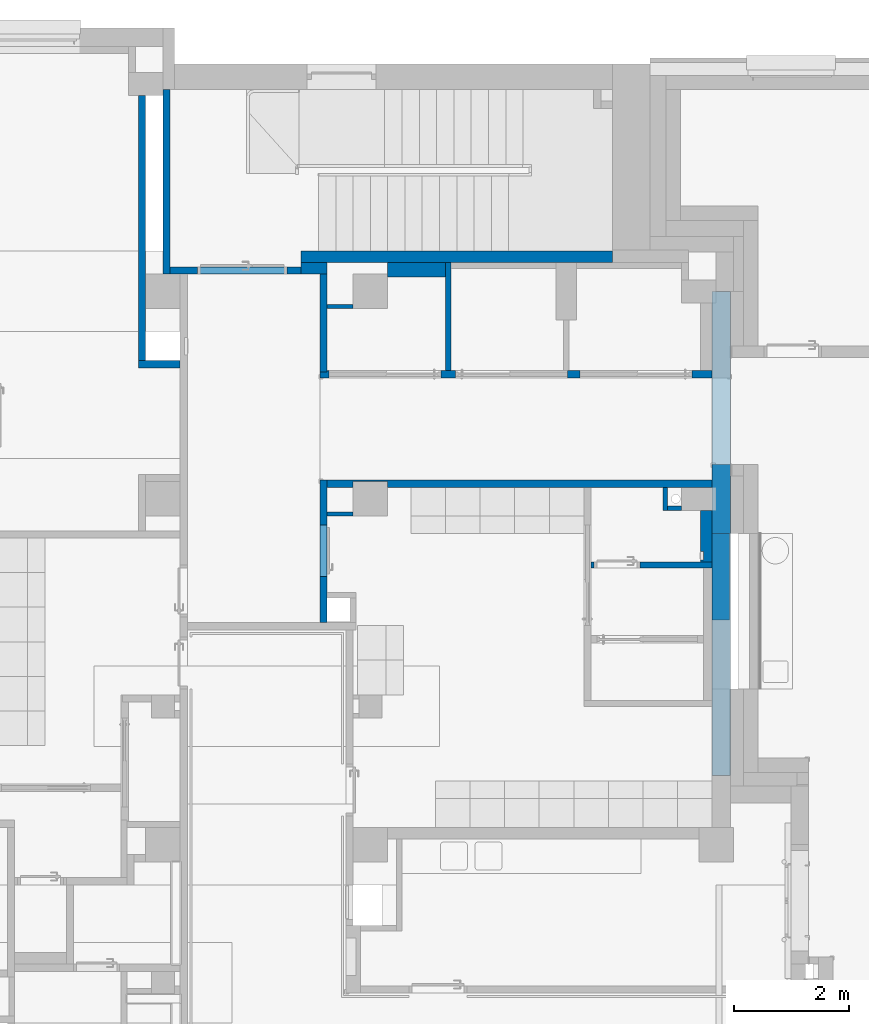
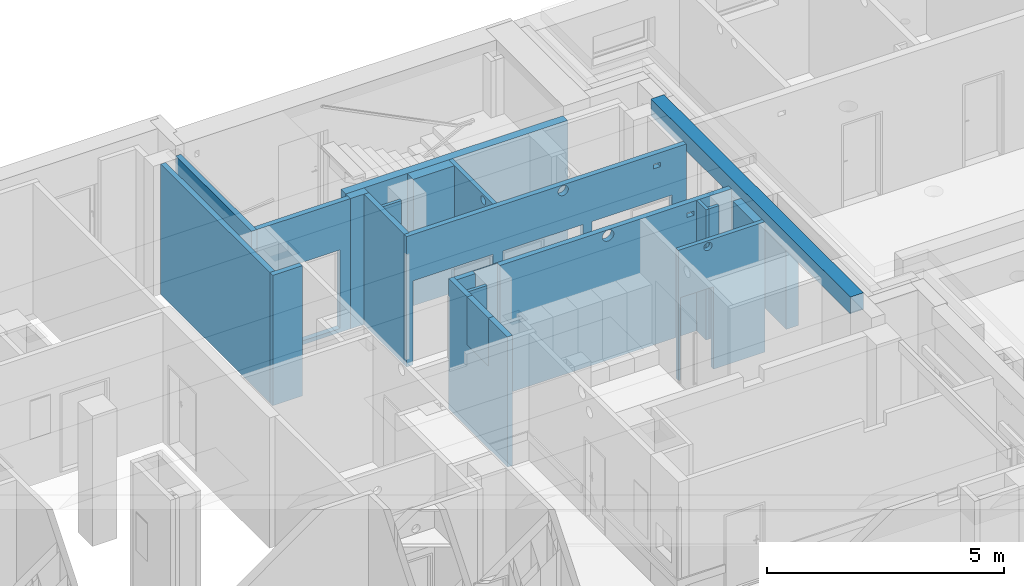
# One storey, part 53 of 140: 22 walls, 16 openings.
"""IFC4 building model written with IfcOpenShell, lengths in metres."""

from ifc_helpers import new_model, entity, si_unit, converted_unit, derived_unit, frame, frame_2d, origin, origin_with_axes, place, context, subcontext, project, spatial, polyline, rectangle, outline, extrude, material, layer, layer_set, layer_usage, element, save


model = new_model("IFC4")

# Units and contexts
model_context = context("Model", 3, precision=1e-05, world=origin())
body_context = subcontext(model_context, "Body", "Model", "MODEL_VIEW")
ifc_project = project(units=[si_unit("LENGTHUNIT", "METRE"), si_unit("AREAUNIT", "SQUARE_METRE"), si_unit("VOLUMEUNIT", "CUBIC_METRE"), si_unit("MASSUNIT", "GRAM", prefix="KILO"), converted_unit("PLANEANGLEUNIT", "DEGREE", entity("IfcPlaneAngleMeasure", 0.0174532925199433), si_unit("PLANEANGLEUNIT", "RADIAN"), dimensions=[0, 0, 0, 0, 0, 0, 0]), derived_unit("THERMALTRANSMITTANCEUNIT", [(si_unit("POWERUNIT", "WATT"), 1), (si_unit("THERMODYNAMICTEMPERATUREUNIT", "KELVIN"), -1), (si_unit("LENGTHUNIT", "METRE"), -2)]), derived_unit("VOLUMETRICFLOWRATEUNIT", [(si_unit("LENGTHUNIT", "METRE"), 3), (converted_unit("TIMEUNIT", "hour", entity("IfcTimeMeasure", 3600.0), si_unit("TIMEUNIT", "SECOND"), dimensions=[0, 0, 1, 0, 0, 0, 0]), -1), (si_unit("LENGTHUNIT", "METRE"), -1)])], contexts=[model_context])

# Site, building, storey
site_placement = place(None, origin())
site = spatial("IfcSite", under=ifc_project, at=site_placement, Name="3. ASŘ", CompositionType="ELEMENT")
building_placement = place(site_placement, origin())
building = spatial("IfcBuilding", under=site, at=building_placement, Name="Pavilon C", CompositionType="ELEMENT")
storey_placement = place(building_placement, origin())
storey = spatial("IfcBuildingStorey", under=building, at=storey_placement, Name="Půdorys 1.NP", CompositionType="ELEMENT", Elevation=0.0)

# Walls
ifc_material_1 = material(Name="ZELEZOBETONOVÁ KCE")
ifc_layer_1 = layer(ifc_material_1, 0.2)
ifc_layer_set_1 = layer_set([ifc_layer_1])
ifc_layer_usage_1 = layer_usage(ifc_layer_set_1, "AXIS2", "POSITIVE", 0.0)
wall_1_placement = place(storey_placement, frame((48.15, 29.5, -0.1), z_axis=(0.0, 0.0, 1.0), x_axis=(-1.0, 0.0, 0.0)))
element("IfcWall", 1, at=wall_1_placement, inside=storey, material=ifc_layer_usage_1, Name="ZELEZOBETONOVÁ KCE", context=body_context, shape_type="SweptSolid", body=[
    extrude(rectangle(XDim=5.40000000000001, YDim=0.2, at=frame_2d((2.70000000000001, 0.1), x_axis=(1.0, 0.0))), origin_with_axes(), (0.0, 0.0, 1.0), 3.35),
])
ifc_material_2 = material(Name="ZDIVO Z CDm")
ifc_layer_2 = layer(ifc_material_2, 0.125)
ifc_layer_set_2 = layer_set([ifc_layer_2])
ifc_layer_usage_2 = layer_usage(ifc_layer_set_2, "AXIS2", "POSITIVE", 0.0)
wall_2_placement = place(storey_placement, frame((40.35, 32.3, -0.1), z_axis=(0.0, 0.0, 1.0), x_axis=(0.0, -1.0, 0.0)))
element("IfcWall", 2, at=wall_2_placement, inside=storey, material=ifc_layer_usage_2, Name="ZDIVO Z CDm", context=body_context, shape_type="SweptSolid", body=[
    extrude(rectangle(XDim=3.19999999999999, YDim=0.125, at=frame_2d((1.6, 0.0625), x_axis=(1.0, 0.0))), origin_with_axes(), (0.0, 0.0, 1.0), 3.35),
])
ifc_material_3 = material(Name="ZDIVO Z CDm")
ifc_layer_3 = layer(ifc_material_3, 0.125)
ifc_layer_set_3 = layer_set([ifc_layer_3])
ifc_layer_usage_3 = layer_usage(ifc_layer_set_3, "AXIS2", "POSITIVE", 0.0)
wall_3_placement = place(storey_placement, frame((40.05, 27.6, -0.1), z_axis=(0.0, 0.0, 1.0), x_axis=(0.0, 1.0, 0.0)))
element("IfcWall", 3, at=wall_3_placement, inside=storey, material=ifc_layer_usage_3, Name="ZDIVO Z CDm", context=body_context, shape_type="SweptSolid", body=[
    extrude(rectangle(XDim=4.6, YDim=0.125, at=frame_2d((2.3, 0.0625), x_axis=(1.0, 0.0))), origin_with_axes(), (0.0, 0.0, 1.0), 3.35),
])
ifc_material_4 = material(Name="ZDIVO Z CDm")
ifc_layer_4 = layer(ifc_material_4, 0.125)
ifc_layer_set_4 = layer_set([ifc_layer_4])
ifc_layer_usage_4 = layer_usage(ifc_layer_set_4, "AXIS2", "POSITIVE", 0.0)
wall_4_placement = place(storey_placement, frame((40.65, 27.6, -0.1), z_axis=(0.0, 0.0, 1.0), x_axis=(-1.0, 0.0, 0.0)))
element("IfcWall", 4, at=wall_4_placement, inside=storey, material=ifc_layer_usage_4, Name="ZDIVO Z CDm", context=body_context, shape_type="SweptSolid", body=[
    extrude(rectangle(XDim=0.725, YDim=0.125, at=frame_2d((0.3625, 0.0625), x_axis=(1.0, 0.0))), origin_with_axes(), (0.0, 0.0, 1.0), 3.35),
])

# Wall, opening
ifc_material_5 = material(Name="ZDIVO Z CDm")
ifc_layer_5 = layer(ifc_material_5, 0.125)
ifc_layer_set_5 = layer_set([ifc_layer_5])
ifc_layer_usage_5 = layer_usage(ifc_layer_set_5, "AXIS2", "POSITIVE", 0.0)
wall_5_placement = place(storey_placement, frame((42.75, 29.225, -0.1), z_axis=(0.0, 0.0, 1.0), x_axis=(-1.0, 0.0, 0.0)))
wall_5 = element("IfcWall", 5, at=wall_5_placement, inside=storey, material=ifc_layer_usage_5, Name="ZDIVO Z CDm", context=body_context, shape_type="SweptSolid", body=[
    extrude(rectangle(XDim=2.27499999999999, YDim=0.125, at=frame_2d((1.13749999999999, 0.0625), x_axis=(1.0, 0.0))), origin_with_axes(), (0.0, 0.0, 1.0), 3.35),
])
opening_1_placement = place(wall_5_placement, frame((0.249999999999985, 0.0, 0.1), z_axis=(0.0, 1.0, 0.0), x_axis=(0.0, 0.0, 1.0)))
element("IfcOpeningElement", 6, at=opening_1_placement, cuts=wall_5, Name="Dveřní otvor", ObjectType="Opening", context=body_context, shape_type="SweptSolid", body=[
    extrude(outline(polyline([(0.0, 1.55), (2.02, 1.55), (2.02, 0.0), (0.0, 0.0), (0.0, 1.55)])), origin_with_axes(), (0.0, 0.0, 1.0), 0.125),
])

# Walls
ifc_material_6 = material(Name="ZDIVO Z CDm")
ifc_layer_6 = layer(ifc_material_6, 0.2)
ifc_layer_set_6 = layer_set([ifc_layer_6])
ifc_layer_usage_6 = layer_usage(ifc_layer_set_6, "AXIS2", "POSITIVE", 0.0)
wall_6_placement = place(storey_placement, frame((43.2, 29.3, -0.1), z_axis=(0.0, 0.0, 1.0), x_axis=(-1.0, 0.0, 0.0)))
element("IfcWall", 7, at=wall_6_placement, inside=storey, material=ifc_layer_usage_6, Name="ZDIVO Z CDm", context=body_context, shape_type="SweptSolid", body=[
    extrude(rectangle(XDim=0.450000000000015, YDim=0.2, at=frame_2d((0.225000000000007, 0.1), x_axis=(1.0, 0.0))), origin_with_axes(), (0.0, 0.0, 1.0), 3.35),
])
ifc_material_7 = material(Name="PLYNOSILIKÁT")
ifc_layer_7 = layer(ifc_material_7, 0.32)
ifc_layer_set_7 = layer_set([ifc_layer_7])
ifc_layer_usage_7 = layer_usage(ifc_layer_set_7, "AXIS2", "POSITIVE", 0.0)
wall_7_placement = place(storey_placement, frame((50.2, 24.6, 1.03), z_axis=(0.0, 0.0, 1.0), x_axis=(0.0, 1.0, 0.0)))
element("IfcWall", 8, at=wall_7_placement, inside=storey, material=ifc_layer_usage_7, Name="PLYNOSILIKÁT", context=body_context, shape_type="SweptSolid", body=[
    extrude(rectangle(XDim=1.19999999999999, YDim=0.32, at=frame_2d((0.599999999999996, 0.16), x_axis=(1.0, 0.0))), origin_with_axes(), (0.0, 0.0, 1.0), 2.04),
])
ifc_material_8 = material(Name="ZELEZOBETONOVÁ KCE")
ifc_layer_8 = layer(ifc_material_8, 0.32)
ifc_layer_set_8 = layer_set([ifc_layer_8])
ifc_layer_usage_8 = layer_usage(ifc_layer_set_8, "AXIS2", "POSITIVE", 0.0)
wall_8_placement = place(storey_placement, frame((50.2, 20.4, 3.07), z_axis=(0.0, 0.0, 1.0), x_axis=(0.0, 1.0, 0.0)))
element("IfcWall", 9, at=wall_8_placement, inside=storey, material=ifc_layer_usage_8, Name="ZELEZOBETONOVÁ KCE", context=body_context, shape_type="SweptSolid", body=[
    extrude(rectangle(XDim=8.4, YDim=0.32, at=frame_2d((4.2, 0.16), x_axis=(1.0, 0.0))), origin_with_axes(), (0.0, 0.0, 1.0), 0.43),
])

# Wall, opening
ifc_material_9 = material(Name="YTONG 300")
ifc_layer_9 = layer(ifc_material_9, 0.3)
ifc_layer_set_9 = layer_set([ifc_layer_9])
ifc_layer_usage_9 = layer_usage(ifc_layer_set_9, "AXIS2", "POSITIVE", 0.0)
wall_9_placement = place(storey_placement, frame((49.88, 24.6, 1.03), z_axis=(0.0, 0.0, 1.0), x_axis=(0.0, -1.0, 0.0)))
wall_9 = element("IfcWall", 10, at=wall_9_placement, inside=storey, material=ifc_layer_usage_9, Name="YTONG 300", context=body_context, shape_type="SweptSolid", body=[
    extrude(rectangle(XDim=1.5, YDim=0.3, at=frame_2d((0.75, 0.15), x_axis=(1.0, 0.0))), origin_with_axes(), (0.0, 0.0, 1.0), 2.04),
])
opening_2_placement = place(wall_9_placement, frame((0.210000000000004, 0.3, 0.15), z_axis=(0.0, -1.0, 0.0), x_axis=(0.0, 0.0, 1.0)))
element("IfcOpeningElement", 11, at=opening_2_placement, cuts=wall_9, Name="ZTI", ObjectType="Opening", context=body_context, shape_type="SweptSolid", body=[
    extrude(outline(polyline([(0.0, 0.11), (0.175, 0.11), (0.175, 0.0), (0.0, 0.0), (0.0, 0.11)])), origin_with_axes(), (0.0, 0.0, 1.0), 0.3),
])

# Wall, openings
ifc_material_10 = material(Name="SDK - 1 KCE + DVOJITÉ OPLÁŠTĚNÍ")
ifc_layer_10 = layer(ifc_material_10, 0.1)
ifc_layer_set_10 = layer_set([ifc_layer_10])
ifc_layer_usage_10 = layer_usage(ifc_layer_set_10, "AXIS2", "POSITIVE", 0.0)
wall_10_placement = place(storey_placement, frame((49.88, 24.1, -0.1), z_axis=(0.0, 0.0, 1.0), x_axis=(-1.0, 0.0, 0.0)))
wall_10 = element("IfcWall", 12, at=wall_10_placement, inside=storey, material=ifc_layer_usage_10, Name="SDK - 1 KCE + DVOJITÉ OPLÁŠTĚNÍ", context=body_context, shape_type="SweptSolid", body=[
    extrude(rectangle(XDim=2.1, YDim=0.1, at=frame_2d((1.05, 0.05), x_axis=(1.0, 0.0))), origin_with_axes(), (0.0, 0.0, 1.0), 3.35),
])
opening_3_placement = place(wall_10_placement, frame((1.25, 0.0, 0.0), z_axis=(0.0, 1.0, 0.0), x_axis=(0.0, 0.0, 1.0)))
element("IfcOpeningElement", 13, at=opening_3_placement, cuts=wall_10, Name="Dveřní otvor", ObjectType="Opening", context=body_context, shape_type="SweptSolid", body=[
    extrude(outline(polyline([(0.0, 0.8), (2.12, 0.8), (2.12, 0.0), (0.0, 0.0), (0.0, 0.8)])), origin_with_axes(), (0.0, 0.0, 1.0), 0.1),
])
opening_4_placement = place(wall_10_placement, frame((1.48, 0.1, 3.1), z_axis=(0.0, -1.0, 0.0), x_axis=(0.0, 0.0, 1.0)))
element("IfcOpeningElement", 14, at=opening_4_placement, cuts=wall_10, Name="VZT", ObjectType="Opening", context=body_context, shape_type="SweptSolid", body=[
    extrude(outline(polyline([(0.1, 0.0), (0.0895471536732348, 0.000547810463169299), (0.0792088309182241, 0.00218523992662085), (0.0690983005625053, 0.00489434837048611), (0.0593263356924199, 0.00864545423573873), (0.05, 0.0133974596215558), (0.0412214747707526, 0.0190983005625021), (0.0330869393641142, 0.025685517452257), (0.0256855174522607, 0.0330869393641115), (0.0190983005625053, 0.0412214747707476), (0.0133974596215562, 0.05), (0.00864545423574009, 0.0593263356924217), (0.00489434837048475, 0.0690983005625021), (0.00218523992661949, 0.0792088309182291), (0.000547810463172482, 0.0895471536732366), (0.0, 0.1), (0.000547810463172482, 0.110452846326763), (0.00218523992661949, 0.120791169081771), (0.00489434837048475, 0.130901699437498), (0.00864545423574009, 0.140673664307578), (0.0133974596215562, 0.15), (0.0190983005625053, 0.158778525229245), (0.0256855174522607, 0.166913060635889), (0.0330869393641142, 0.174314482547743), (0.0412214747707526, 0.180901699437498), (0.05, 0.186602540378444), (0.0593263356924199, 0.191354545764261), (0.0690983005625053, 0.195105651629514), (0.0792088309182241, 0.197814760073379), (0.0895471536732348, 0.199452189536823), (0.1, 0.2), (0.110452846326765, 0.199452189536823), (0.120791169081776, 0.197814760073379), (0.130901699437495, 0.195105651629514), (0.14067366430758, 0.191354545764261), (0.15, 0.186602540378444), (0.158778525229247, 0.180901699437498), (0.166913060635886, 0.174314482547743), (0.174314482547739, 0.166913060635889), (0.180901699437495, 0.158778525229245), (0.186602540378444, 0.15), (0.19135454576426, 0.140673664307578), (0.195105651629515, 0.130901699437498), (0.197814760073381, 0.120791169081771), (0.199452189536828, 0.110452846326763), (0.2, 0.1), (0.199452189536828, 0.0895471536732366), (0.197814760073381, 0.0792088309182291), (0.195105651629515, 0.0690983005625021), (0.19135454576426, 0.0593263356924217), (0.186602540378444, 0.05), (0.180901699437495, 0.0412214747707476), (0.174314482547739, 0.0330869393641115), (0.166913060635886, 0.025685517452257), (0.158778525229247, 0.0190983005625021), (0.15, 0.0133974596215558), (0.14067366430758, 0.00864545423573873), (0.130901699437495, 0.00489434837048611), (0.120791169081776, 0.00218523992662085), (0.110452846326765, 0.000547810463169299), (0.1, 0.0)])), origin_with_axes(), (0.0, 0.0, 1.0), 0.1),
])

# Wall
ifc_material_11 = material(Name="SDK OPL. PROFESÍ/SDK OPL. BEZ PO")
ifc_layer_11 = layer(ifc_material_11, 0.075)
ifc_layer_set_11 = layer_set([ifc_layer_11])
ifc_layer_usage_11 = layer_usage(ifc_layer_set_11, "AXIS2", "POSITIVE", 0.0)
wall_11_placement = place(storey_placement, frame((43.2, 24.9, 0.0)))
element("IfcWall", 15, at=wall_11_placement, inside=storey, material=ifc_layer_usage_11, Name="SDK OPL. PROFESÍ/SDK OPL. BEZ PO", context=body_context, shape_type="SweptSolid", body=[
    extrude(rectangle(XDim=0.45, YDim=0.075, at=frame_2d((0.225, 0.0375), x_axis=(1.0, 0.0))), origin_with_axes(), (0.0, 0.0, 1.0), 3.25),
])

# Wall, opening
ifc_material_12 = material(Name="SDK INSTAL. PŘDSTĚNA VYSOKÁ")
ifc_layer_12 = layer(ifc_material_12, 0.2)
ifc_layer_set_12 = layer_set([ifc_layer_12])
ifc_layer_usage_12 = layer_usage(ifc_layer_set_12, "AXIS2", "POSITIVE", 0.0)
wall_12_placement = place(storey_placement, frame((49.68, 25.0, -0.1), z_axis=(0.0, 0.0, 1.0), x_axis=(0.0, -1.0, 0.0)))
wall_12 = element("IfcWall", 16, at=wall_12_placement, inside=storey, material=ifc_layer_usage_12, Name="SDK INSTAL. PŘDSTĚNA VYSOKÁ", context=body_context, shape_type="SweptSolid", body=[
    extrude(rectangle(XDim=0.9, YDim=0.2, at=frame_2d((0.45, 0.1), x_axis=(1.0, 0.0))), origin_with_axes(), (0.0, 0.0, 1.0), 3.35),
])
opening_5_placement = place(wall_12_placement, frame((0.709999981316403, 0.0, 1.1), z_axis=(0.0, 1.0, 0.0), x_axis=(0.0, 0.0, 1.0)))
element("IfcOpeningElement", 17, at=opening_5_placement, cuts=wall_12, Name="Stěnová nika", ObjectType="Opening", context=body_context, shape_type="SweptSolid", body=[
    extrude(outline(polyline([(0.0, 0.15), (0.2, 0.15), (0.2, 0.0), (0.0, 0.0), (0.0, 0.15)])), origin_with_axes(), (0.0, 0.0, 1.0), 0.05),
])

# Walls
ifc_material_13 = material(Name="SDK - 1 KCE + DVOJITÉ OPLÁŠTĚNÍ")
ifc_layer_13 = layer(ifc_material_13, 0.125)
ifc_layer_set_13 = layer_set([ifc_layer_13])
ifc_layer_usage_13 = layer_usage(ifc_layer_set_13, "AXIS2", "POSITIVE", 0.0)
wall_13_placement = place(storey_placement, frame((43.075, 29.1, -0.1), z_axis=(0.0, 0.0, 1.0), x_axis=(0.0, -1.0, 0.0)))
element("IfcWall", 18, at=wall_13_placement, inside=storey, material=ifc_layer_usage_13, Name="SDK - 1 KCE + DVOJITÉ OPLÁŠTĚNÍ", context=body_context, shape_type="SweptSolid", body=[
    extrude(rectangle(XDim=1.69999999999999, YDim=0.125, at=frame_2d((0.849999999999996, 0.0625), x_axis=(1.0, 0.0))), origin_with_axes(), (0.0, 0.0, 1.0), 3.35),
])
ifc_material_14 = material(Name="SDK OPL. PROFESÍ/SDK OPL. BEZ PO")
ifc_layer_14 = layer(ifc_material_14, 0.075)
ifc_layer_set_14 = layer_set([ifc_layer_14])
ifc_layer_usage_14 = layer_usage(ifc_layer_set_14, "AXIS2", "POSITIVE", 0.0)
wall_14_placement = place(storey_placement, frame((43.2, 28.5, 0.0)))
element("IfcWall", 19, at=wall_14_placement, inside=storey, material=ifc_layer_usage_14, Name="SDK OPL. PROFESÍ/SDK OPL. BEZ PO", context=body_context, shape_type="SweptSolid", body=[
    extrude(rectangle(XDim=0.45, YDim=0.075, at=frame_2d((0.225, 0.0375), x_axis=(1.0, 0.0))), origin_with_axes(), (0.0, 0.0, 1.0), 3.25),
])

# Wall, opening
ifc_material_15 = material(Name="SDK - 1 KCE + DVOJITÉ OPLÁŠTĚNÍ")
ifc_layer_15 = layer(ifc_material_15, 0.125)
ifc_layer_set_15 = layer_set([ifc_layer_15])
ifc_layer_usage_15 = layer_usage(ifc_layer_set_15, "AXIS2", "POSITIVE", 0.0)
wall_15_placement = place(storey_placement, frame((43.2, 23.05, -0.1), z_axis=(0.0, 0.0, 1.0), x_axis=(0.0, 1.0, 0.0)))
wall_15 = element("IfcWall", 20, at=wall_15_placement, inside=storey, material=ifc_layer_usage_15, Name="SDK - 1 KCE + DVOJITÉ OPLÁŠTĚNÍ", context=body_context, shape_type="SweptSolid", body=[
    extrude(rectangle(XDim=2.475, YDim=0.125, at=frame_2d((1.2375, 0.0625), x_axis=(1.0, 0.0))), origin_with_axes(), (0.0, 0.0, 1.0), 3.35),
])
opening_6_placement = place(wall_15_placement, frame((1.09788189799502, 0.0, 3.05), z_axis=(0.0, 1.0, 0.0), x_axis=(0.0, 0.0, 1.0)))
element("IfcOpeningElement", 21, at=opening_6_placement, cuts=wall_15, Name="VZT", ObjectType="Opening", context=body_context, shape_type="SweptSolid", body=[
    extrude(outline(polyline([(0.149999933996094, 0.0), (0.134320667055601, 0.00082172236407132), (0.11881318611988, 0.00327787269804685), (0.10364739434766, 0.0073415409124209), (0.0889894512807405, 0.0129682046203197), (0.074999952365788, 0.0200962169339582), (0.0618321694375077, 0.0286474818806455), (0.0496303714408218, 0.0385283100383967), (0.0385282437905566, 0.0496304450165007), (0.0286474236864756, 0.0618322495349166), (0.0200961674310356, 0.0750000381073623), (0.0129681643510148, 0.0889895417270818), (0.00734151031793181, 0.103647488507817), (0.00327785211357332, 0.118813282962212), (0.000821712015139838, 0.134320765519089), (0.0, 0.150000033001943), (0.000821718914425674, 0.165679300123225), (0.00327786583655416, 0.181186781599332), (0.00734153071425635, 0.196352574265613), (0.012968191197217, 0.211010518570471), (0.0200962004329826, 0.225000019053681), (0.0286474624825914, 0.238167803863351), (0.0385282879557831, 0.250369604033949), (0.0496304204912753, 0.261471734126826), (0.0618322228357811, 0.271352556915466), (0.0750000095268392, 0.279903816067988), (0.088989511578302, 0.287031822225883), (0.103647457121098, 0.292658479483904), (0.118813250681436, 0.296722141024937), (0.134320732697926, 0.299178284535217), (0.149999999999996, 0.3), (0.165679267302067, 0.299178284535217), (0.181186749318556, 0.296722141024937), (0.196352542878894, 0.292658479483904), (0.211010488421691, 0.287031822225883), (0.224999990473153, 0.279903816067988), (0.238167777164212, 0.271352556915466), (0.250369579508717, 0.261471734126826), (0.26147171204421, 0.250369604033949), (0.271352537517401, 0.238167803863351), (0.27990379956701, 0.225000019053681), (0.287031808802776, 0.211010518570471), (0.292658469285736, 0.196352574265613), (0.296722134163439, 0.181186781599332), (0.299178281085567, 0.165679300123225), (0.299999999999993, 0.150000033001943), (0.299178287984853, 0.134320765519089), (0.296722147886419, 0.118813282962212), (0.292658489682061, 0.103647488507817), (0.287031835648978, 0.0889895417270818), (0.279903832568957, 0.0750000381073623), (0.271352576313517, 0.0618322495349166), (0.261471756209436, 0.0496304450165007), (0.250369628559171, 0.0385283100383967), (0.238167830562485, 0.0286474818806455), (0.225000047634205, 0.0200962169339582), (0.211010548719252, 0.0129682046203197), (0.196352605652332, 0.0073415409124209), (0.181186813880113, 0.00327787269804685), (0.165679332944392, 0.00082172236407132), (0.149999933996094, 0.0)])), origin_with_axes(), (0.0, 0.0, 1.0), 0.125),
])

ifc_material_16 = material(Name="SDK - 1 KCE + DVOJITÉ OPLÁŠTĚNÍ")
ifc_layer_16 = layer(ifc_material_16, 0.125)
ifc_layer_set_16 = layer_set([ifc_layer_16])
ifc_layer_usage_16 = layer_usage(ifc_layer_set_16, "AXIS2", "POSITIVE", 0.0)
wall_16_placement = place(storey_placement, frame((43.2, 23.85, 0.0), z_axis=(0.0, 0.0, 1.0), x_axis=(0.0, 1.0, 0.0)))
wall_16 = element("IfcWall", 22, at=wall_16_placement, inside=storey, material=ifc_layer_usage_16, Name="SDK - 1 KCE + DVOJITÉ OPLÁŠTĚNÍ", context=body_context, shape_type="SweptSolid", body=[
    extrude(rectangle(XDim=0.9, YDim=0.125, at=frame_2d((0.45, 0.0625), x_axis=(1.0, 0.0))), origin_with_axes(), (0.0, 0.0, 1.0), 3.25),
])
opening_7_placement = place(wall_16_placement, frame((0.9, 0.125, -0.1), z_axis=(0.0, -1.0, 0.0), x_axis=(0.0, 0.0, 1.0)))
element("IfcOpeningElement", 23, at=opening_7_placement, cuts=wall_16, Name="Dveřní otvor", ObjectType="Opening", context=body_context, shape_type="SweptSolid", body=[
    extrude(outline(polyline([(0.0, 0.9), (2.12, 0.9), (2.12, 0.0), (0.0, 0.0), (0.0, 0.9)])), origin_with_axes(), (0.0, 0.0, 1.0), 0.125),
])

# Wall, openings
ifc_material_17 = material(Name="SDK - 1 KCE + DVOJITÉ OPLÁŠTĚNÍ")
ifc_layer_17 = layer(ifc_material_17, 0.125)
ifc_layer_set_17 = layer_set([ifc_layer_17])
ifc_layer_usage_17 = layer_usage(ifc_layer_set_17, "AXIS2", "POSITIVE", 0.0)
wall_17_placement = place(storey_placement, frame((43.2, 25.4, -0.1)))
wall_17 = element("IfcWall", 24, at=wall_17_placement, inside=storey, material=ifc_layer_usage_17, Name="SDK - 1 KCE + DVOJITÉ OPLÁŠTĚNÍ", context=body_context, shape_type="SweptSolid", body=[
    extrude(rectangle(XDim=6.68, YDim=0.125, at=frame_2d((3.34, 0.0625), x_axis=(1.0, 0.0))), origin_with_axes(), (0.0, 0.0, 1.0), 3.35),
])
opening_8_placement = place(wall_17_placement, frame((0.45, 0.0, 0.0), z_axis=(0.0, 1.0, 0.0), x_axis=(0.0, 0.0, 1.0)))
element("IfcOpeningElement", 25, at=opening_8_placement, cuts=wall_17, Name="Stěnová nika", ObjectType="Opening", context=body_context, shape_type="SweptSolid", body=[
    extrude(outline(polyline([(0.0, 0.6), (3.35, 0.6), (3.35, 0.0), (0.0, 0.0), (0.0, 0.6)])), origin_with_axes(), (0.0, 0.0, 1.0), 0.1),
])
opening_9_placement = place(wall_17_placement, frame((3.54, 0.0, 3.06), z_axis=(0.0, 1.0, 0.0), x_axis=(0.0, 0.0, 1.0)))
element("IfcOpeningElement", 26, at=opening_9_placement, cuts=wall_17, Name="VZT", ObjectType="Opening", context=body_context, shape_type="SweptSolid", body=[
    extrude(outline(polyline([(0.14, 0.0), (0.125366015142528, 0.000766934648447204), (0.110892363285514, 0.00305933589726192), (0.0967376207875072, 0.00685208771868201), (0.0830568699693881, 0.0121036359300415), (0.07, 0.0187564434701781), (0.0577100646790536, 0.0267376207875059), (0.0463217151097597, 0.0359597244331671), (0.0359597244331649, 0.0463217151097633), (0.0267376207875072, 0.0577100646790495), (0.0187564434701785, 0.07), (0.012103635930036, 0.0830568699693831), (0.00685208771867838, 0.0967376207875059), (0.00305933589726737, 0.110892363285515), (0.000766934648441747, 0.125366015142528), (0.0, 0.14), (0.000766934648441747, 0.154633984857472), (0.00305933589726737, 0.169107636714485), (0.00685208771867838, 0.183262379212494), (0.012103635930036, 0.196943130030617), (0.0187564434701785, 0.21), (0.0267376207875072, 0.222289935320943), (0.0359597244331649, 0.233678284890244), (0.0463217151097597, 0.244040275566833), (0.0577100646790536, 0.253262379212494), (0.07, 0.261243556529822), (0.0830568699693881, 0.267896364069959), (0.0967376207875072, 0.273147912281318), (0.110892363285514, 0.276940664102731), (0.125366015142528, 0.27923306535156), (0.14, 0.28), (0.154633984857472, 0.27923306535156), (0.169107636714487, 0.276940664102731), (0.183262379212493, 0.273147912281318), (0.196943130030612, 0.267896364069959), (0.21, 0.261243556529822), (0.222289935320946, 0.253262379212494), (0.23367828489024, 0.244040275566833), (0.244040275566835, 0.233678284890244), (0.253262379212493, 0.222289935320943), (0.261243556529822, 0.21), (0.267896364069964, 0.196943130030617), (0.273147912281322, 0.183262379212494), (0.276940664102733, 0.169107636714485), (0.279233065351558, 0.154633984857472), (0.28, 0.14), (0.279233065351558, 0.125366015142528), (0.276940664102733, 0.110892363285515), (0.273147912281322, 0.0967376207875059), (0.267896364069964, 0.0830568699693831), (0.261243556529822, 0.07), (0.253262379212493, 0.0577100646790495), (0.244040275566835, 0.0463217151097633), (0.23367828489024, 0.0359597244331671), (0.222289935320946, 0.0267376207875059), (0.21, 0.0187564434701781), (0.196943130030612, 0.0121036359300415), (0.183262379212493, 0.00685208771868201), (0.169107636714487, 0.00305933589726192), (0.154633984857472, 0.000766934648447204), (0.14, 0.0)])), origin_with_axes(), (0.0, 0.0, 1.0), 0.125),
])
opening_10_placement = place(wall_17_placement, frame((5.5925, 0.0, 2.99), z_axis=(0.0, 1.0, 0.0), x_axis=(0.0, 0.0, 1.0)))
element("IfcOpeningElement", 27, at=opening_10_placement, cuts=wall_17, Name="ZTI", ObjectType="Opening", context=body_context, shape_type="SweptSolid", body=[
    extrude(outline(polyline([(0.0, 0.175), (0.11, 0.175), (0.11, 0.0), (0.0, 0.0), (0.0, 0.175)])), origin_with_axes(), (0.0, 0.0, 1.0), 0.125),
])

# Wall
ifc_material_18 = material(Name="SDK INSTAL. PŘDSTĚNA VYSOKÁ")
ifc_layer_18 = layer(ifc_material_18, 0.25)
ifc_layer_set_18 = layer_set([ifc_layer_18])
ifc_layer_usage_18 = layer_usage(ifc_layer_set_18, "AXIS2", "POSITIVE", 0.0)
wall_18_placement = place(storey_placement, frame((45.25, 29.3, 0.0), z_axis=(0.0, 0.0, 1.0), x_axis=(-1.0, 0.0, 0.0)))
element("IfcWall", 28, at=wall_18_placement, inside=storey, material=ifc_layer_usage_18, Name="SDK INSTAL. PŘDSTĚNA VYSOKÁ", context=body_context, shape_type="SweptSolid", body=[
    extrude(rectangle(XDim=1.0, YDim=0.25, at=frame_2d((0.5, 0.125), x_axis=(1.0, 0.0))), origin_with_axes(), (0.0, 0.0, 1.0), 3.25),
])

# Wall, openings
ifc_material_19 = material(Name="SDK - 1 KCE + DVOJITÉ OPLÁŠTĚNÍ")
ifc_layer_19 = layer(ifc_material_19, 0.125)
ifc_layer_set_19 = layer_set([ifc_layer_19])
ifc_layer_usage_19 = layer_usage(ifc_layer_set_19, "AXIS2", "POSITIVE", 0.0)
wall_19_placement = place(storey_placement, frame((43.075, 27.3, -0.1)))
wall_19 = element("IfcWall", 29, at=wall_19_placement, inside=storey, material=ifc_layer_usage_19, Name="SDK - 1 KCE + DVOJITÉ OPLÁŠTĚNÍ", context=body_context, shape_type="SweptSolid", body=[
    extrude(outline(polyline([(0.0, 0.0), (6.805, 0.0), (6.805, 0.125), (0.125, 0.125), (0.125, 0.100000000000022), (0.0, 0.100000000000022), (0.0, 0.0)])), origin_with_axes(), (0.0, 0.0, 1.0), 3.35),
])
opening_11_placement = place(wall_19_placement, frame((0.155, 0.0, 0.0), z_axis=(0.0, 1.0, 0.0), x_axis=(0.0, 0.0, 1.0)))
element("IfcOpeningElement", 30, at=opening_11_placement, cuts=wall_19, Name="Dveřní otvor", ObjectType="Opening", context=body_context, shape_type="SweptSolid", body=[
    extrude(outline(polyline([(0.0, 1.945), (2.16, 1.945), (2.16, 0.0), (0.0, 0.0), (0.0, 1.945)])), origin_with_axes(), (0.0, 0.0, 1.0), 0.125),
])
opening_12_placement = place(wall_19_placement, frame((4.51, 0.0, 0.0), z_axis=(0.0, 1.0, 0.0), x_axis=(0.0, 0.0, 1.0)))
element("IfcOpeningElement", 31, at=opening_12_placement, cuts=wall_19, Name="Dveřní otvor", ObjectType="Opening", context=body_context, shape_type="SweptSolid", body=[
    extrude(outline(polyline([(0.0, 1.945), (2.16, 1.945), (2.16, 0.0), (0.0, 0.0), (0.0, 1.945)])), origin_with_axes(), (0.0, 0.0, 1.0), 0.125),
])
opening_13_placement = place(wall_19_placement, frame((2.35, 0.0, 0.0), z_axis=(0.0, 1.0, 0.0), x_axis=(0.0, 0.0, 1.0)))
element("IfcOpeningElement", 32, at=opening_13_placement, cuts=wall_19, Name="Dveřní otvor", ObjectType="Opening", context=body_context, shape_type="SweptSolid", body=[
    extrude(outline(polyline([(0.0, 1.945), (2.16, 1.945), (2.16, 0.0), (0.0, 0.0), (0.0, 1.945)])), origin_with_axes(), (0.0, 0.0, 1.0), 0.125),
])
opening_14_placement = place(wall_19_placement, frame((6.00075727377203, 0.0, 2.99), z_axis=(0.0, 1.0, 0.0), x_axis=(0.0, 0.0, 1.0)))
element("IfcOpeningElement", 33, at=opening_14_placement, cuts=wall_19, Name="ZTI", ObjectType="Opening", context=body_context, shape_type="SweptSolid", body=[
    extrude(outline(polyline([(0.0, 0.175), (0.11, 0.175), (0.11, 0.0), (0.0, 0.0), (0.0, 0.175)])), origin_with_axes(), (0.0, 0.0, 1.0), 0.125),
])
opening_15_placement = place(wall_19_placement, frame((3.685, 0.0, 3.075), z_axis=(0.0, 1.0, 0.0), x_axis=(0.0, 0.0, 1.0)))
element("IfcOpeningElement", 34, at=opening_15_placement, cuts=wall_19, Name="VZT", ObjectType="Opening", context=body_context, shape_type="SweptSolid", body=[
    extrude(outline(polyline([(0.125, 0.0), (0.111933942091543, 0.000684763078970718), (0.09901103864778, 0.00273154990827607), (0.0863728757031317, 0.00611793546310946), (0.0741579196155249, 0.010806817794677), (0.0625, 0.0167468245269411), (0.0515268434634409, 0.0238728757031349), (0.041358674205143, 0.0321068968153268), (0.0321068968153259, 0.0413586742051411), (0.0238728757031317, 0.0515268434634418), (0.0167468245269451, 0.0625), (0.0108068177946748, 0.0741579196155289), (0.00611793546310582, 0.0863728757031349), (0.00273154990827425, 0.0990110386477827), (0.000684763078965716, 0.111933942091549), (0.0, 0.125), (0.000684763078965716, 0.138066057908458), (0.00273154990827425, 0.150988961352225), (0.00611793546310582, 0.163627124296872), (0.0108068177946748, 0.175842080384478), (0.0167468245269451, 0.1875), (0.0238728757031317, 0.198473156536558), (0.0321068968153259, 0.208641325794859), (0.0413586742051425, 0.217893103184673), (0.0515268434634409, 0.226127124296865), (0.0625, 0.233253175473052), (0.0741579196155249, 0.239193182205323), (0.0863728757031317, 0.243882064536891), (0.09901103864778, 0.247268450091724), (0.111933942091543, 0.249315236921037), (0.125, 0.25), (0.138066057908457, 0.249315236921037), (0.15098896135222, 0.247268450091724), (0.163627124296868, 0.243882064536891), (0.175842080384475, 0.239193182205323), (0.1875, 0.233253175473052), (0.198473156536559, 0.226127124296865), (0.208641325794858, 0.217893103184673), (0.217893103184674, 0.208641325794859), (0.226127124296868, 0.198473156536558), (0.233253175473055, 0.1875), (0.239193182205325, 0.175842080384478), (0.243882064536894, 0.163627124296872), (0.247268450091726, 0.150988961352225), (0.249315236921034, 0.138066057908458), (0.25, 0.125), (0.249315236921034, 0.111933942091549), (0.247268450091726, 0.0990110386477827), (0.243882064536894, 0.0863728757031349), (0.239193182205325, 0.0741579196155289), (0.233253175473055, 0.0625), (0.226127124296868, 0.0515268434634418), (0.217893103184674, 0.0413586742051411), (0.208641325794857, 0.0321068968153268), (0.198473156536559, 0.0238728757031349), (0.1875, 0.0167468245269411), (0.175842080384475, 0.010806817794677), (0.163627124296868, 0.00611793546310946), (0.15098896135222, 0.00273154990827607), (0.138066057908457, 0.000684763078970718), (0.125, 0.0)])), origin_with_axes(), (0.0, 0.0, 1.0), 0.125),
])

# Wall, opening
ifc_material_20 = material(Name="SDK - 1 KCE + DVOJITÉ OPLÁŠTĚNÍ")
ifc_layer_20 = layer(ifc_material_20, 0.1)
ifc_layer_set_20 = layer_set([ifc_layer_20])
ifc_layer_usage_20 = layer_usage(ifc_layer_set_20, "AXIS2", "POSITIVE", 0.0)
wall_20_placement = place(storey_placement, frame((45.25, 29.3, -0.1), z_axis=(0.0, 0.0, 1.0), x_axis=(0.0, -1.0, 0.0)))
wall_20 = element("IfcWall", 35, at=wall_20_placement, inside=storey, material=ifc_layer_usage_20, Name="SDK - 1 KCE + DVOJITÉ OPLÁŠTĚNÍ", context=body_context, shape_type="SweptSolid", body=[
    extrude(rectangle(XDim=1.87500000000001, YDim=0.1, at=frame_2d((0.937500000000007, 0.05), x_axis=(1.0, 0.0))), origin_with_axes(), (0.0, 0.0, 1.0), 3.35),
])
opening_16_placement = place(wall_20_placement, frame((1.56499996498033, 0.1, 3.1), z_axis=(0.0, -1.0, 0.0), x_axis=(0.0, 0.0, 1.0)))
element("IfcOpeningElement", 36, at=opening_16_placement, cuts=wall_20, Name="VZT", ObjectType="Opening", context=body_context, shape_type="SweptSolid", body=[
    extrude(outline(polyline([(0.099999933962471, 0.0), (0.089547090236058, 0.000547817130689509), (0.0792087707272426, 0.00218525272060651), (0.0690982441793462, 0.00489436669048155), (0.0593262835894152, 0.00864547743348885), (0.0499999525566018, 0.0133974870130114), (0.0412214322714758, 0.0190983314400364), (0.0330869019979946, 0.0256855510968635), (0.0256854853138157, 0.0330869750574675), (0.0190982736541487, 0.0412215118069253), (0.0133974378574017, 0.0500000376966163), (0.00864543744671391, 0.0593263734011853), (0.00489433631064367, 0.0690983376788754), (0.00218523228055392, 0.0792088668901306), (0.000547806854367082, 0.0895471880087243), (0.0, 0.1000000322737), (0.000547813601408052, 0.110452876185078), (0.00218524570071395, 0.120791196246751), (0.00489435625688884, 0.130901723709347), (0.00864546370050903, 0.140673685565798), (0.0133974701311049, 0.150000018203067), (0.0190983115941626, 0.158778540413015), (0.0256855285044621, 0.166913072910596), (0.0330869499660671, 0.174314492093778), (0.041221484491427, 0.180901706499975), (0.0500000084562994, 0.186602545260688), (0.0593263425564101, 0.191354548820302), (0.0690983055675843, 0.195105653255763), (0.0792088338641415, 0.197814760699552), (0.0895471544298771, 0.199452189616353), (0.0999999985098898, 0.2), (0.110452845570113, 0.199452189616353), (0.120791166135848, 0.197814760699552), (0.130901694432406, 0.195105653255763), (0.14067365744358, 0.191354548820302), (0.149999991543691, 0.186602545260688), (0.158778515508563, 0.180901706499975), (0.166913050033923, 0.174314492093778), (0.174314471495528, 0.166913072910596), (0.180901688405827, 0.158778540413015), (0.186602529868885, 0.150000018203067), (0.191354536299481, 0.140673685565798), (0.195105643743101, 0.130901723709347), (0.197814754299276, 0.120791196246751), (0.199452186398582, 0.110452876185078), (0.19999999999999, 0.1000000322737), (0.199452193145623, 0.0895471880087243), (0.197814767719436, 0.0792088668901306), (0.195105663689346, 0.0690983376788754), (0.191354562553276, 0.0593263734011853), (0.186602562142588, 0.0500000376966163), (0.180901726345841, 0.0412215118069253), (0.174314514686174, 0.0330869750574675), (0.166913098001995, 0.0256855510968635), (0.158778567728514, 0.0190983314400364), (0.150000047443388, 0.0133974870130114), (0.140673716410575, 0.00864547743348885), (0.130901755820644, 0.00489436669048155), (0.120791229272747, 0.00218525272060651), (0.110452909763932, 0.000547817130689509), (0.099999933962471, 0.0)])), origin_with_axes(), (0.0, 0.0, 1.0), 0.1),
])

# Walls
ifc_material_21 = material(Name="SDK ŠACHTOVÁ STĚNA/SDK OPL. S PO")
ifc_layer_21 = layer(ifc_material_21, 0.075)
ifc_layer_set_21 = layer_set([ifc_layer_21])
ifc_layer_usage_21 = layer_usage(ifc_layer_set_21, "AXIS2", "POSITIVE", 0.0)
wall_21_placement = place(storey_placement, frame((49.105, 25.0, -0.1)))
element("IfcWall", 37, at=wall_21_placement, inside=storey, material=ifc_layer_usage_21, Name="SDK ŠACHTOVÁ STĚNA/SDK OPL. S PO", context=body_context, shape_type="SweptSolid", body=[
    extrude(rectangle(XDim=0.245, YDim=0.075, at=frame_2d((0.1225, 0.0375), x_axis=(1.0, 0.0))), origin_with_axes(), (0.0, 0.0, 1.0), 3.35),
])
ifc_material_22 = material(Name="SDK ŠACHTOVÁ STĚNA/SDK OPL. S PO")
ifc_layer_22 = layer(ifc_material_22, 0.075)
ifc_layer_set_22 = layer_set([ifc_layer_22])
ifc_layer_usage_22 = layer_usage(ifc_layer_set_22, "AXIS2", "POSITIVE", 0.0)
wall_22_placement = place(storey_placement, frame((49.03, 25.4, -0.1), z_axis=(0.0, 0.0, 1.0), x_axis=(0.0, -1.0, 0.0)))
element("IfcWall", 38, at=wall_22_placement, inside=storey, material=ifc_layer_usage_22, Name="SDK ŠACHTOVÁ STĚNA/SDK OPL. S PO", context=body_context, shape_type="SweptSolid", body=[
    extrude(rectangle(XDim=0.399999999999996, YDim=0.075, at=frame_2d((0.199999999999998, 0.0375), x_axis=(1.0, 0.0))), origin_with_axes(), (0.0, 0.0, 1.0), 3.35),
])

save(model, "model.ifc")
